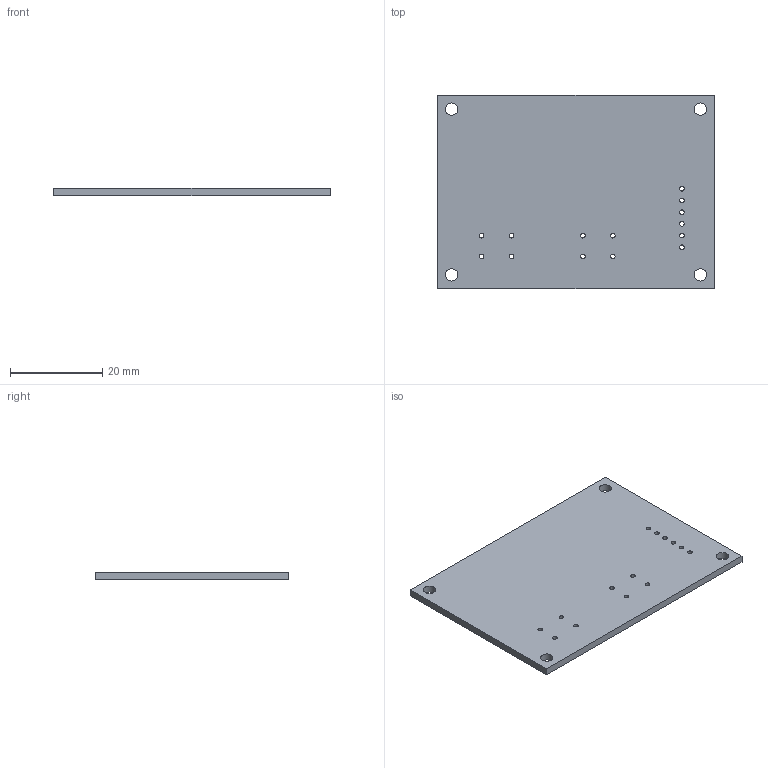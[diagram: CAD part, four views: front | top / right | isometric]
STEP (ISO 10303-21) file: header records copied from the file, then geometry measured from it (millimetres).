
FILE_DESCRIPTION(('Open CASCADE Model'),'2;1');
FILE_NAME('Open CASCADE Shape Model','2026-11-05T02:23:55',('Author'),( 'Open CASCADE'),'Open CASCADE STEP processor 7.8','Open CASCADE 7.8' ,'Unknown');
FILE_SCHEMA(('AUTOMOTIVE_DESIGN { 1 0 10303 214 1 1 1 1 }'));
Length unit declared in the file: millimetre
Products named in the file (1): Open CASCADE STEP translator 7.8 24
Bounding box: 60 x 42 x 1.6 mm (x, y, z)
Volume: 3977.8 mm3; surface area: 5423.3 mm2
Topology: 1 solids, 1 shells, 24 faces, 66 edges, 44 vertices
Faces by surface type: cylinder 18, plane 6
Full cylindrical faces by diameter (mm): 1 x14, 2.7 x4
Entity records: 1726 total; most frequent: DIRECTION 284, CARTESIAN_POINT 267, ORIENTED_EDGE 132, PCURVE 132, DEFINITIONAL_REPRESENTATION 132, LINE 126, VECTOR 126, CIRCLE 72
